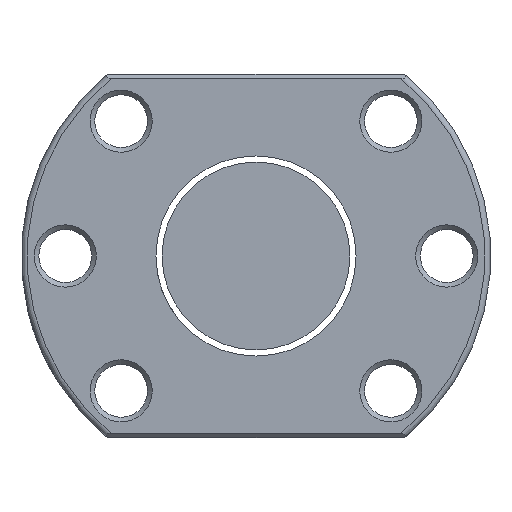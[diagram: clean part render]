
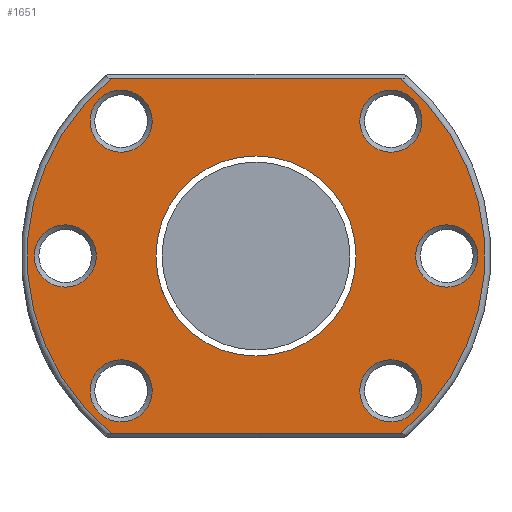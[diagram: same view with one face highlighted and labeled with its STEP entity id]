
A CAD part, left-side view. The second image highlights one B-rep face of the part: STEP entity #1651.
In plain terms, the highlighted planar face has unit normal (-1, 0, 0).
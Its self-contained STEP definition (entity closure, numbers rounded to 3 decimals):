
#24 = CARTESIAN_POINT ( 'NONE',  ( -52., 25.278, 30.2 ) ) ;
#43 = CARTESIAN_POINT ( 'NONE',  ( -52., -22.981, 22.981 ) ) ;
#58 = CARTESIAN_POINT ( 'NONE',  ( -52., -22.981, -22.981 ) ) ;
#70 = CARTESIAN_POINT ( 'NONE',  ( -52., -32.5, 0. ) ) ;
#78 = ORIENTED_EDGE ( 'NONE', *, *, #242, .T. ) ;
#96 = CARTESIAN_POINT ( 'NONE',  ( -52., -28.281, 22.981 ) ) ;
#109 = CARTESIAN_POINT ( 'NONE',  ( -52., 17.05, 0. ) ) ;
#128 = AXIS2_PLACEMENT_3D ( 'NONE', #1346, #2598, #869 ) ;
#149 = CARTESIAN_POINT ( 'NONE',  ( -52., 32.5, 0. ) ) ;
#185 = ORIENTED_EDGE ( 'NONE', *, *, #2496, .T. ) ;
#201 = EDGE_LOOP ( 'NONE', ( #2615 ) ) ;
#213 = AXIS2_PLACEMENT_3D ( 'NONE', #43, #1729, #264 ) ;
#218 = VERTEX_POINT ( 'NONE', #2247 ) ;
#227 = DIRECTION ( 'NONE',  ( -1., 0., 0. ) ) ;
#238 = ORIENTED_EDGE ( 'NONE', *, *, #937, .T. ) ;
#242 = EDGE_CURVE ( 'NONE', #1977, #1977, #3129, .T. ) ;
#264 = DIRECTION ( 'NONE',  ( 0., -1., 0. ) ) ;
#318 = ORIENTED_EDGE ( 'NONE', *, *, #977, .T. ) ;
#336 = ORIENTED_EDGE ( 'NONE', *, *, #2807, .T. ) ;
#375 = DIRECTION ( 'NONE',  ( -1., 0., 0. ) ) ;
#379 = ORIENTED_EDGE ( 'NONE', *, *, #592, .T. ) ;
#433 = CIRCLE ( 'NONE', #781, 17.05 ) ;
#486 = FACE_BOUND ( 'NONE', #201, .T. ) ;
#516 = DIRECTION ( 'NONE',  ( 0., 1., 0. ) ) ;
#529 = DIRECTION ( 'NONE',  ( -1., 0., 0. ) ) ;
#586 = CARTESIAN_POINT ( 'NONE',  ( -52., 27.2, 0. ) ) ;
#592 = EDGE_CURVE ( 'NONE', #2272, #2272, #974, .T. ) ;
#607 = DIRECTION ( 'NONE',  ( 0., -1., 0. ) ) ;
#659 = ORIENTED_EDGE ( 'NONE', *, *, #1358, .T. ) ;
#677 = AXIS2_PLACEMENT_3D ( 'NONE', #58, #2964, #2249 ) ;
#736 = DIRECTION ( 'NONE',  ( 0., -1., 0. ) ) ;
#738 = LINE ( 'NONE', #24, #1739 ) ;
#747 = EDGE_CURVE ( 'NONE', #2255, #2255, #2509, .T. ) ;
#781 = AXIS2_PLACEMENT_3D ( 'NONE', #2214, #2163, #516 ) ;
#792 = VERTEX_POINT ( 'NONE', #924 ) ;
#795 = CARTESIAN_POINT ( 'NONE',  ( -52., 22.981, 22.981 ) ) ;
#869 = DIRECTION ( 'NONE',  ( 0., -1., 0. ) ) ;
#924 = CARTESIAN_POINT ( 'NONE',  ( -52., 17.681, 22.981 ) ) ;
#931 = EDGE_LOOP ( 'NONE', ( #238 ) ) ;
#937 = EDGE_CURVE ( 'NONE', #1801, #1801, #2046, .T. ) ;
#974 = CIRCLE ( 'NONE', #213, 5.3 ) ;
#977 = EDGE_CURVE ( 'NONE', #2900, #2115, #2656, .T. ) ;
#1012 = CARTESIAN_POINT ( 'NONE',  ( -52., -37.8, 0. ) ) ;
#1045 = CARTESIAN_POINT ( 'NONE',  ( -52., -28.281, -22.981 ) ) ;
#1065 = CARTESIAN_POINT ( 'NONE',  ( -52., 24.677, 30.2 ) ) ;
#1113 = CARTESIAN_POINT ( 'NONE',  ( -52., -24.677, 30.2 ) ) ;
#1120 = CARTESIAN_POINT ( 'NONE',  ( -52., 17.681, -22.981 ) ) ;
#1174 = FACE_BOUND ( 'NONE', #1408, .T. ) ;
#1234 = AXIS2_PLACEMENT_3D ( 'NONE', #2335, #375, #1350 ) ;
#1249 = EDGE_LOOP ( 'NONE', ( #379 ) ) ;
#1269 = CARTESIAN_POINT ( 'NONE',  ( -52., -24.677, -30.2 ) ) ;
#1346 = CARTESIAN_POINT ( 'NONE',  ( -52., 22.981, -22.981 ) ) ;
#1350 = DIRECTION ( 'NONE',  ( 0., -1., 0. ) ) ;
#1358 = EDGE_CURVE ( 'NONE', #218, #2900, #2784, .T. ) ;
#1408 = EDGE_LOOP ( 'NONE', ( #1550 ) ) ;
#1447 = CARTESIAN_POINT ( 'NONE',  ( -52., 0., 0. ) ) ;
#1471 = ORIENTED_EDGE ( 'NONE', *, *, #2300, .T. ) ;
#1536 = VERTEX_POINT ( 'NONE', #109 ) ;
#1550 = ORIENTED_EDGE ( 'NONE', *, *, #747, .T. ) ;
#1650 = FACE_BOUND ( 'NONE', #3146, .T. ) ;
#1651 = ADVANCED_FACE ( 'NONE', ( #486, #1174, #1698, #2402, #1650, #3136, #2367, #2383 ), #3084, .T. ) ;
#1698 = FACE_BOUND ( 'NONE', #2156, .T. ) ;
#1729 = DIRECTION ( 'NONE',  ( 1., 0., 0. ) ) ;
#1739 = VECTOR ( 'NONE', #2896, 1000. ) ;
#1786 = CARTESIAN_POINT ( 'NONE',  ( -52., -25.278, -30.2 ) ) ;
#1801 = VERTEX_POINT ( 'NONE', #586 ) ;
#1861 = EDGE_CURVE ( 'NONE', #2115, #2714, #738, .T. ) ;
#1977 = VERTEX_POINT ( 'NONE', #1012 ) ;
#2046 = CIRCLE ( 'NONE', #2601, 5.3 ) ;
#2083 = EDGE_LOOP ( 'NONE', ( #659, #318, #2480, #185 ) ) ;
#2091 = VECTOR ( 'NONE', #3035, 1000. ) ;
#2115 = VERTEX_POINT ( 'NONE', #1113 ) ;
#2145 = DIRECTION ( 'NONE',  ( 0., -1., 0. ) ) ;
#2156 = EDGE_LOOP ( 'NONE', ( #78 ) ) ;
#2163 = DIRECTION ( 'NONE',  ( 1., 0., 0. ) ) ;
#2214 = CARTESIAN_POINT ( 'NONE',  ( -52., 0., 0. ) ) ;
#2244 = DIRECTION ( 'NONE',  ( 0., -1., 0. ) ) ;
#2247 = CARTESIAN_POINT ( 'NONE',  ( -52., 24.677, -30.2 ) ) ;
#2249 = DIRECTION ( 'NONE',  ( 0., -1., 0. ) ) ;
#2255 = VERTEX_POINT ( 'NONE', #1045 ) ;
#2258 = AXIS2_PLACEMENT_3D ( 'NONE', #795, #2786, #2244 ) ;
#2272 = VERTEX_POINT ( 'NONE', #96 ) ;
#2300 = EDGE_CURVE ( 'NONE', #1536, #1536, #433, .T. ) ;
#2335 = CARTESIAN_POINT ( 'NONE',  ( -52., 0., 0. ) ) ;
#2367 = FACE_OUTER_BOUND ( 'NONE', #2083, .T. ) ;
#2383 = FACE_BOUND ( 'NONE', #2715, .T. ) ;
#2402 = FACE_BOUND ( 'NONE', #1249, .T. ) ;
#2417 = AXIS2_PLACEMENT_3D ( 'NONE', #70, #2657, #736 ) ;
#2480 = ORIENTED_EDGE ( 'NONE', *, *, #1861, .T. ) ;
#2496 = EDGE_CURVE ( 'NONE', #2714, #218, #2666, .T. ) ;
#2509 = CIRCLE ( 'NONE', #677, 5.3 ) ;
#2536 = DIRECTION ( 'NONE',  ( 1., 0., 0. ) ) ;
#2556 = AXIS2_PLACEMENT_3D ( 'NONE', #2911, #227, #2145 ) ;
#2598 = DIRECTION ( 'NONE',  ( 1., 0., 0. ) ) ;
#2601 = AXIS2_PLACEMENT_3D ( 'NONE', #149, #2536, #607 ) ;
#2615 = ORIENTED_EDGE ( 'NONE', *, *, #2943, .T. ) ;
#2656 = CIRCLE ( 'NONE', #1234, 39. ) ;
#2657 = DIRECTION ( 'NONE',  ( 1., 0., 0. ) ) ;
#2666 = CIRCLE ( 'NONE', #2773, 39. ) ;
#2714 = VERTEX_POINT ( 'NONE', #1065 ) ;
#2715 = EDGE_LOOP ( 'NONE', ( #1471 ) ) ;
#2773 = AXIS2_PLACEMENT_3D ( 'NONE', #1447, #529, #2928 ) ;
#2784 = LINE ( 'NONE', #1786, #2091 ) ;
#2786 = DIRECTION ( 'NONE',  ( 1., 0., 0. ) ) ;
#2807 = EDGE_CURVE ( 'NONE', #792, #792, #2818, .T. ) ;
#2811 = VERTEX_POINT ( 'NONE', #1120 ) ;
#2818 = CIRCLE ( 'NONE', #2258, 5.3 ) ;
#2896 = DIRECTION ( 'NONE',  ( 0., 1., 0. ) ) ;
#2900 = VERTEX_POINT ( 'NONE', #1269 ) ;
#2911 = CARTESIAN_POINT ( 'NONE',  ( -52., 40., 0. ) ) ;
#2921 = CIRCLE ( 'NONE', #128, 5.3 ) ;
#2928 = DIRECTION ( 'NONE',  ( 0., -1., 0. ) ) ;
#2943 = EDGE_CURVE ( 'NONE', #2811, #2811, #2921, .T. ) ;
#2964 = DIRECTION ( 'NONE',  ( 1., 0., 0. ) ) ;
#3035 = DIRECTION ( 'NONE',  ( 0., -1., 0. ) ) ;
#3084 = PLANE ( 'NONE',  #2556 ) ;
#3129 = CIRCLE ( 'NONE', #2417, 5.3 ) ;
#3136 = FACE_BOUND ( 'NONE', #931, .T. ) ;
#3146 = EDGE_LOOP ( 'NONE', ( #336 ) ) ;
